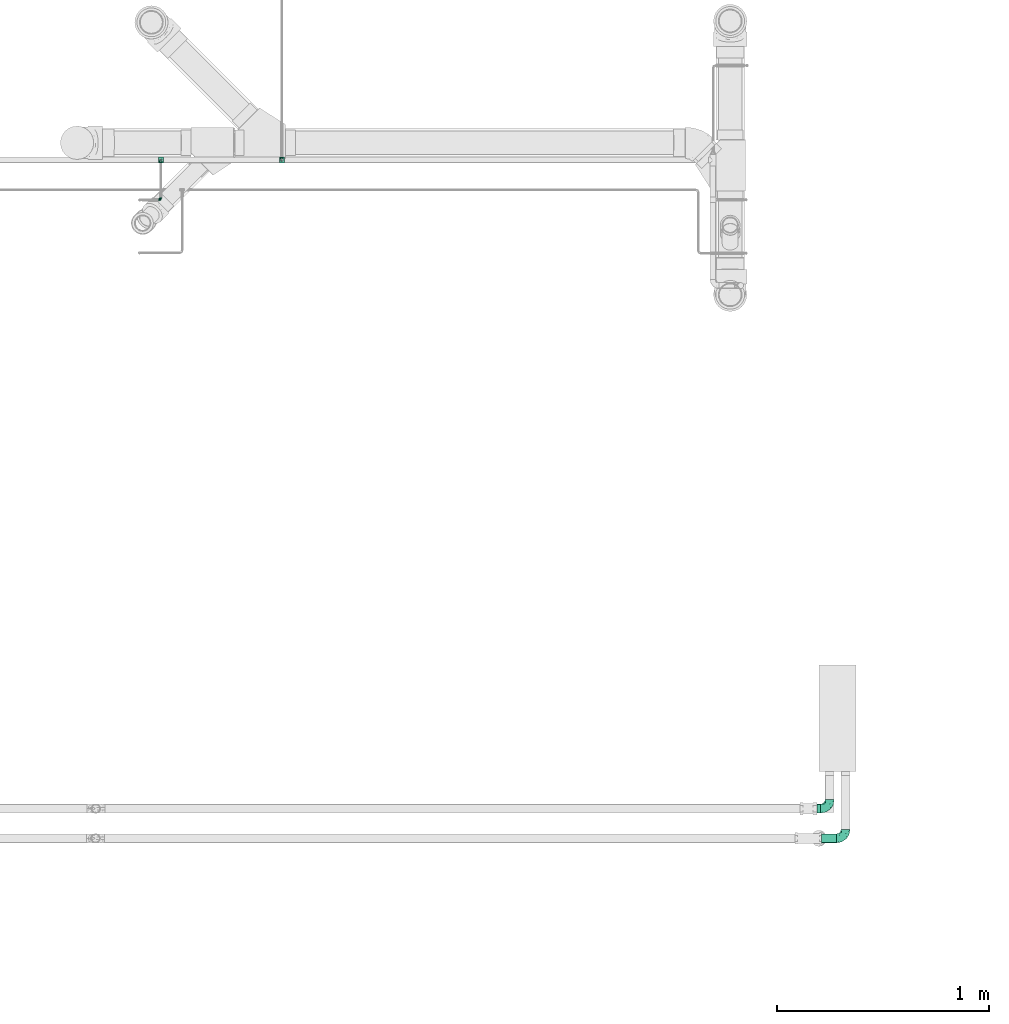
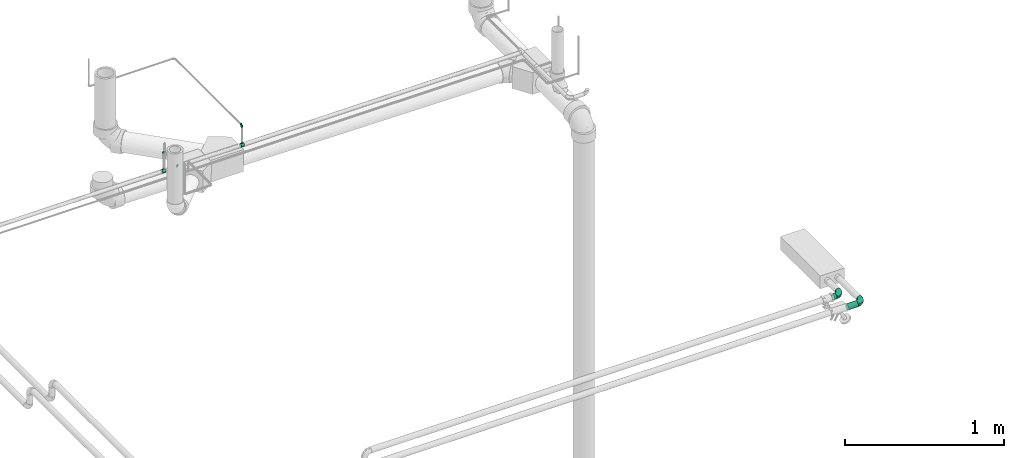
# One storey, part 72 of 108: 7 flow fittings, 2 flow segments.
"""IFC2X3 building model written with IfcOpenShell, lengths in millimetres."""

import ifcopenshell
import ifcopenshell.guid

model = None  # the IFC model being written
_history = None  # IfcOwnerHistory: only IFC2X3 demands one
_inside = {}  # id of a spatial element -> (the spatial element, [elements in it])
_under = {}  # id of a project, library or spatial element -> (it, [spatial elements below it])
_declared = {}  # id of a project -> (the project, [libraries it declares])
_typed = {}  # id of a type object -> (the type object, [elements of that type])
_made_of = {}  # id of a material, layer set ... -> (it, [elements and type objects made of it])


def new_model(schema):
    """Start an empty IFC model of exactly this schema.

    Asked for "IFC4X3", IfcOpenShell would pick the latest addendum, in which some entities
    have other attributes; the version numbers below select the first issue.
    IFC2X3 requires an IfcOwnerHistory on every rooted entity: one is made here for all.
    """
    global model, _history
    if schema == "IFC4X3":
        model = ifcopenshell.file(schema_version=(4, 3, 0, 0))
    else:
        model = ifcopenshell.file(schema=schema)
    _inside.clear()
    _under.clear()
    _declared.clear()
    _typed.clear()
    _made_of.clear()
    _history = None
    if model.schema == "IFC2X3":
        org = make("IfcOrganization", Name="unknown")
        user = make(
            "IfcPersonAndOrganization",
            ThePerson=make("IfcPerson", FamilyName="unknown"),
            TheOrganization=org,
        )
        app = make(
            "IfcApplication",
            ApplicationDeveloper=org,
            Version="unknown",
            ApplicationFullName="unknown",
            ApplicationIdentifier="unknown",
        )
        _history = make(
            "IfcOwnerHistory",
            OwningUser=user,
            OwningApplication=app,
            ChangeAction="ADDED",
            CreationDate=0,
        )
    return model


def make(cls, **values):
    """One entity of the class cls with the attributes given. An attribute that is None is left unset."""
    return model.create_entity(
        cls, **{name: value for name, value in values.items() if value is not None}
    )


def entity(cls, *values):
    """Any entity or typed value of the class cls, its attributes in the order of the schema. None: left unset."""
    e = model.create_entity(cls)
    for i, value in enumerate(values):
        if value is not None:
            e[i] = value
    return e


def rooted(cls, **values):
    """An entity with a GlobalId (a new one), such as an element, a storey or a relation."""
    return make(cls, GlobalId=ifcopenshell.guid.new(), OwnerHistory=_history, **values)


def si_unit(unit_type, name, prefix=None):
    """IfcSIUnit, for example si_unit("LENGTHUNIT", "METRE", prefix="MILLI")."""
    return make("IfcSIUnit", UnitType=unit_type, Prefix=prefix, Name=name)


def converted_unit(unit_type, name, factor, base, dimensions=None, offset=None):
    """IfcConversionBasedUnit, such as the inch: factor (a typed value) times the base unit."""
    return make(
        "IfcConversionBasedUnit"
        if offset is None
        else "IfcConversionBasedUnitWithOffset",
        ConversionOffset=offset,
        Dimensions=None
        if dimensions is None
        else entity("IfcDimensionalExponents", *dimensions),
        UnitType=unit_type,
        Name=name,
        ConversionFactor=make(
            "IfcMeasureWithUnit", ValueComponent=factor, UnitComponent=base
        ),
    )


def derived_unit(unit_type, elements):
    """IfcDerivedUnit: a product of units, each with its exponent."""
    return make(
        "IfcDerivedUnit",
        Elements=[
            make("IfcDerivedUnitElement", Unit=unit, Exponent=power)
            for unit, power in elements
        ],
        UnitType=unit_type,
    )


def assignment(units):
    """IfcUnitAssignment: the units of a project."""
    return None if units is None else make("IfcUnitAssignment", Units=units)


def point(xyz):
    """IfcCartesianPoint."""
    return None if xyz is None else make("IfcCartesianPoint", Coordinates=xyz)


def direction(xyz):
    """IfcDirection."""
    return None if xyz is None else make("IfcDirection", DirectionRatios=xyz)


def frame(location, z_axis=None, x_axis=None):
    """IfcAxis2Placement3D, a coordinate frame: its origin and axes. An axis left out is left unset."""
    return make(
        "IfcAxis2Placement3D",
        Location=point(location),
        Axis=direction(z_axis),
        RefDirection=direction(x_axis),
    )


def frame_2d(location, x_axis=None):
    """IfcAxis2Placement2D, a coordinate frame in the plane: its origin and x axis."""
    return make(
        "IfcAxis2Placement2D", Location=point(location), RefDirection=direction(x_axis)
    )


def origin_with_axes():
    """The frame at (0, 0, 0) with the z axis (0, 0, 1) and the x axis (1, 0, 0) written out."""
    return frame((0.0, 0.0, 0.0), z_axis=(0.0, 0.0, 1.0), x_axis=(1.0, 0.0, 0.0))


def origin_2d_with_axis():
    """The frame at (0, 0) in the plane with the x axis (1, 0) written out."""
    return frame_2d((0.0, 0.0), x_axis=(1.0, 0.0))


def place(relative_to, where):
    """IfcLocalPlacement: puts the frame where relative to a parent placement (None: the world)."""
    return make(
        "IfcLocalPlacement", PlacementRelTo=relative_to, RelativePlacement=where
    )


def context(
    kind, dimensions, precision=None, world=None, true_north=None, identifier=None
):
    """IfcGeometricRepresentationContext, for example the 3D "Model" context."""
    return make(
        "IfcGeometricRepresentationContext",
        ContextIdentifier=identifier,
        ContextType=kind,
        CoordinateSpaceDimension=dimensions,
        Precision=precision,
        WorldCoordinateSystem=world,
        TrueNorth=true_north,
    )


def subcontext(parent, identifier, kind, view, scale=None):
    """IfcGeometricRepresentationSubContext, for example "Body" below "Model"."""
    return make(
        "IfcGeometricRepresentationSubContext",
        ContextIdentifier=identifier,
        ContextType=kind,
        ParentContext=parent,
        TargetScale=scale,
        TargetView=view,
    )


def project(units=None, contexts=None):
    """IfcProject with its units and contexts."""
    return rooted(
        "IfcProject",
        Name="project",
        RepresentationContexts=contexts,
        UnitsInContext=assignment(units),
    )


def spatial(cls, under=None, at=None, **own):
    """A site, building, storey or space (cls), placed at a placement, below another one or the project."""
    s = rooted(cls, ObjectPlacement=at, **own)
    if under is not None:
        _under.setdefault(under.id(), (under, []))[1].append(s)
    return s


def profile(cls, at=None, kind="AREA", **sizes):
    """A parametric profile (cls). Its sizes go by their IFC names, for example OverallWidth=200.0."""
    return make(cls, ProfileType=kind, Position=at, **sizes)


def hollow_circle(**sizes):
    """IfcCircleHollowProfileDef."""
    return profile("IfcCircleHollowProfileDef", **sizes)


def extrude(swept, where, along, depth):
    """IfcExtrudedAreaSolid: the profile swept, set in the frame where, extruded along a direction by depth."""
    return make(
        "IfcExtrudedAreaSolid",
        SweptArea=swept,
        Position=where,
        ExtrudedDirection=direction(along),
        Depth=depth,
    )


def faces_of(points, faces, orient=None, outer=None):
    """IfcFace entities. A face is a list of loops; a loop is a list of indices into points, from 0.

    orient and outer hold one flag for each loop. By default every Orientation is true, the
    first loop of a face is its IfcFaceOuterBound and the others are IfcFaceBound.
    """
    made = []
    for i, loops in enumerate(faces):
        bounds = []
        for j, loop in enumerate(loops):
            is_outer = j == 0 if outer is None else outer[i][j]
            bounds.append(
                make(
                    "IfcFaceOuterBound" if is_outer else "IfcFaceBound",
                    Bound=make("IfcPolyLoop", Polygon=[points[k] for k in loop]),
                    Orientation=True if orient is None else orient[i][j],
                )
            )
        made.append(make("IfcFace", Bounds=bounds))
    return made


def open_shell(faces, orient=None, outer=None):
    """The faces of one IfcOpenShell. surface_model builds it on its shared points."""
    return ("IfcOpenShell", faces, orient, outer)


def surface_model(cls, points, shells):
    """IfcFaceBasedSurfaceModel or IfcShellBasedSurfaceModel (cls): surfaces that need not close."""
    shared = [point(p) for p in points]
    made = [make(c, CfsFaces=faces_of(shared, fs, o, b)) for c, fs, o, b in shells]
    if cls == "IfcFaceBasedSurfaceModel":
        return make(cls, FbsmFaces=made)
    return make(cls, SbsmBoundary=made)


def shape(context_of_items, identifier, shape_type, items):
    """IfcShapeRepresentation: the items that make up one representation, for example the "Body"."""
    return make(
        "IfcShapeRepresentation",
        ContextOfItems=context_of_items,
        RepresentationIdentifier=identifier,
        RepresentationType=shape_type,
        Items=items,
    )


def source(mapping_origin, context_of_items, identifier, shape_type, items):
    """IfcRepresentationMap: a shape defined once, which mapped items show again and again."""
    return make(
        "IfcRepresentationMap",
        MappingOrigin=mapping_origin,
        MappedRepresentation=shape(context_of_items, identifier, shape_type, items),
    )


def transform(
    local_origin,
    x_axis=None,
    y_axis=None,
    z_axis=None,
    scale=None,
    scale2=None,
    scale3=None,
    uniform=True,
):
    """IfcCartesianTransformationOperator3D, or its non-uniform kind. x_axis, y_axis, z_axis: its Axis1, 2, 3."""
    if uniform:
        return make(
            "IfcCartesianTransformationOperator3D",
            Axis1=direction(x_axis),
            Axis2=direction(y_axis),
            LocalOrigin=point(local_origin),
            Scale=scale,
            Axis3=direction(z_axis),
        )
    return make(
        "IfcCartesianTransformationOperator3DnonUniform",
        Axis1=direction(x_axis),
        Axis2=direction(y_axis),
        LocalOrigin=point(local_origin),
        Scale=scale,
        Axis3=direction(z_axis),
        Scale2=scale2,
        Scale3=scale3,
    )


def mapped(mapping_source, mapping_target):
    """IfcMappedItem: shows the shape of a source again, moved by a transform."""
    return make(
        "IfcMappedItem", MappingSource=mapping_source, MappingTarget=mapping_target
    )


def made_of(thing, what):
    """Note that an element or type object is made of a material, layer set ...; save() writes the relation."""
    if what is not None:
        _made_of.setdefault(what.id(), (what, []))[1].append(thing)
    return thing


def type_object(cls, material=None, **own):
    """A type object (cls), such as IfcWallType, which elements share."""
    return made_of(rooted(cls, **own), material)


def element(
    cls,
    number,
    at=None,
    inside=None,
    cuts=None,
    type_object=None,
    material=None,
    context=None,
    identifier="Body",
    shape_type=None,
    held_by="IfcProductDefinitionShape",
    body=None,
    shapes=None,
    **own,
):
    """One element of the class cls, such as IfcWall. Its Tag is "e" and its number.

    at: its placement. inside: the storey or other place that contains it. cuts: it is an
    opening in that element (IfcRelVoidsElement). A single representation is given by context,
    identifier, shape_type and body (its items); several are given by shapes. held_by: the class
    of the entity that holds the representations. save() writes the other relations.
    """
    e = rooted(cls, Tag="e%d" % number, ObjectPlacement=at, **own)
    if body is not None:
        shapes = [shape(context, identifier, shape_type, body)]
    if shapes is not None:
        e.Representation = make(held_by, Representations=shapes)
    if inside is not None:
        _inside.setdefault(inside.id(), (inside, []))[1].append(e)
    if cuts is not None:
        rooted(
            "IfcRelVoidsElement", RelatingBuildingElement=cuts, RelatedOpeningElement=e
        )
    if type_object is not None:
        _typed.setdefault(type_object.id(), (type_object, []))[1].append(e)
    return made_of(e, material)


def aggregate(whole, parts):
    """IfcRelAggregates: a whole, such as a stair, and the parts it consists of."""
    return rooted("IfcRelAggregates", RelatingObject=whole, RelatedObjects=parts)


def save(model, path):
    """Write the relations noted so far, then the file.

    IfcRelAggregates (storeys below a building ...), IfcRelContainedInSpatialStructure (elements
    in a storey), IfcRelDefinesByType, IfcRelAssociatesMaterial and IfcRelDeclares: one each for
    every whole, place, type object, material and project.
    """
    for whole, parts in _under.values():
        aggregate(whole, parts)
    for where, things in _inside.values():
        rooted(
            "IfcRelContainedInSpatialStructure",
            RelatedElements=things,
            RelatingStructure=where,
        )
    for kind, things in _typed.values():
        rooted("IfcRelDefinesByType", RelatedObjects=things, RelatingType=kind)
    for what, things in _made_of.values():
        rooted("IfcRelAssociatesMaterial", RelatedObjects=things, RelatingMaterial=what)
    for by, libraries in _declared.values():
        rooted("IfcRelDeclares", RelatingContext=by, RelatedDefinitions=libraries)
    model.write(path)


model = new_model("IFC2X3")

# Units and contexts
model_context = context("Model", 3, precision=0.01, world=frame((0.0, 4.29681676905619e-09, 0.0)), true_north=direction((4.01073788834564e-13, 1.0)))
plan_context = context("Plan", 3, precision=0.01, world=frame((0.0, 4.29681676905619e-09, 0.0)), true_north=direction((4.01073788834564e-13, 1.0)))
body_context = subcontext(model_context, "Body", "Model", "MODEL_VIEW")
ifc_project = project(units=[converted_unit("PLANEANGLEUNIT", "DEGREE", entity("IfcPositiveLengthMeasure", 0.0174532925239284), si_unit("PLANEANGLEUNIT", "RADIAN"), dimensions=[0, 0, 0, 0, 0, 0, 0]), si_unit("AREAUNIT", "SQUARE_METRE"), si_unit("LENGTHUNIT", "METRE", prefix="MILLI"), si_unit("MASSUNIT", "GRAM", prefix="KILO"), si_unit("POWERUNIT", "WATT"), si_unit("PRESSUREUNIT", "PASCAL", prefix="KILO"), si_unit("FORCEUNIT", "NEWTON", prefix="KILO"), si_unit("ELECTRICVOLTAGEUNIT", "VOLT"), si_unit("ELECTRICCURRENTUNIT", "AMPERE"), si_unit("THERMODYNAMICTEMPERATUREUNIT", "DEGREE_CELSIUS"), si_unit("TIMEUNIT", "SECOND"), si_unit("VOLUMEUNIT", "CUBIC_METRE"), derived_unit("LINEARVELOCITYUNIT", [(si_unit("LENGTHUNIT", "METRE"), 1), (si_unit("TIMEUNIT", "SECOND"), -1)]), derived_unit("VOLUMETRICFLOWRATEUNIT", [(si_unit("VOLUMEUNIT", "CUBIC_METRE"), 1), (si_unit("TIMEUNIT", "SECOND"), -1)]), derived_unit("THERMALTRANSMITTANCEUNIT", [(si_unit("POWERUNIT", "WATT"), 1), (si_unit("THERMODYNAMICTEMPERATUREUNIT", "KELVIN"), -1), (si_unit("AREAUNIT", "SQUARE_METRE"), -1)]), derived_unit("SOUNDPRESSUREUNIT", [(si_unit("PRESSUREUNIT", "PASCAL"), 1)])], contexts=[model_context, plan_context])

# Site, building, storey
site_placement = place(None, frame((0.0, -4.29681676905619e-09, 0.0), z_axis=(0.0, 0.0, 1.0), x_axis=(1.0, 0.0, 0.0)))
site = spatial("IfcSite", under=ifc_project, at=site_placement, CompositionType="ELEMENT")
building_placement = place(site_placement, frame((0.0, 4.29681676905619e-09, 0.0), z_axis=(0.0, 0.0, 1.0), x_axis=(1.0, 0.0, 0.0)))
building = spatial("IfcBuilding", under=site, at=building_placement, Name="mc-building", CompositionType="ELEMENT")
storey_placement = place(building_placement, frame((0.0, 0.0, 210200.0), z_axis=(0.0, 0.0, 1.0), x_axis=(1.0, 0.0, 0.0)))
storey = spatial("IfcBuildingStorey", under=building, at=storey_placement, Name="Nivå F - 0,7 m", CompositionType="ELEMENT", Elevation=210200.0)

# Flow fittings
pipe_fitting_type_1 = type_object("IfcPipeFittingType", Name="magi_pipe_fe_elbow_short_001", PredefinedType="BEND")
shared_shape_1 = source(origin_with_axes(), body_context, "Body", "SurfaceModel", [
    surface_model("IfcShellBasedSurfaceModel", [(-42.4, 10.6, -18.35974), (-42.4, 5.48696, -20.47763), (-42.4, 0.0, -21.2), (-42.4, 14.99066, -14.99066), (-42.4, 20.47763, -5.48696), (-42.4, 18.35974, -10.6), (-42.4, -14.99066, 14.99066), (-42.4, -21.2, 0.0), (-42.4, -10.6, -18.35974), (-42.4, -14.99066, -14.99066), (-42.4, -5.48696, -20.47763), (-42.4, -18.35974, -10.6), (-42.4, -20.47763, -5.48696), (-42.4, 10.6, 18.35974), (-42.4, 20.47763, 5.48696), (-42.4, 18.35974, 10.6), (-42.4, 14.99066, 14.99066), (-42.4, 5.48696, 20.47763), (-42.4, 0.0, 21.2), (-42.4, -20.47763, 5.48696), (-42.4, -18.35974, 10.6), (-42.4, -10.6, 18.35974), (-42.4, -5.48696, 20.47763), (-42.4, 21.2, 0.0), (0.0, 42.4, -21.2), (-5.48696, 42.4, -20.47763), (-10.6, 42.4, -18.35974), (-14.99066, 42.4, -14.99066), (-18.35974, 42.4, -10.6), (-20.47763, 42.4, -5.48696), (21.2, 42.4, 0.0), (5.48696, 42.4, -20.47763), (14.99066, 42.4, -14.99066), (10.6, 42.4, -18.35974), (18.35974, 42.4, -10.6), (20.47763, 42.4, -5.48696), (14.99066, 42.4, 14.99066), (-20.47763, 42.4, 5.48696), (-10.6, 42.4, 18.35974), (-14.99066, 42.4, 14.99066), (-18.35974, 42.4, 10.6), (-5.48696, 42.4, 20.47763), (0.0, 42.4, 21.2), (18.35974, 42.4, 10.6), (20.47763, 42.4, 5.48696), (5.48696, 42.4, 20.47763), (10.6, 42.4, 18.35974), (-21.2, 42.4, 0.0), (-31.10239, -16.47009, 11.90111), (-27.83957, -12.231, 15.79732), (-30.23067, -18.77937, 0.0), (-18.74048, -13.50096, 10.69998), (-28.17586, -18.50359, 6.61185), (18.50359, 28.17586, 6.61185), (14.95929, 16.60735, 5.43468), (16.35874, 18.06133, 0.0), (-20.72313, 33.83635, 9.21426), (-17.70981, 33.00599, 13.92769), (-31.16033, -8.01664, 19.07348), (-32.38682, -2.80842, 20.83743), (-29.68688, 3.24967, 21.16387), (-7.74467, -9.46536, 0.0), (-16.60735, -14.95929, 5.43468), (-18.06133, -16.35874, 0.0), (-16.37932, -5.14532, 17.61254), (-21.10659, -0.19025, 20.54817), (-1.82445, -3.58377, 9.55223), (-0.35533, 0.43745, 12.66367), (-7.20655, -5.07682, 13.06146), (-33.14056, 17.6728, 13.91288), (-7.36799, 20.84806, 21.16196), (-15.70315, 15.70315, 20.68489), (-12.62356, 9.26422, 21.0908), (-36.67879, 12.83836, 17.27427), (-7.91358, 36.5686, 19.85759), (-2.90555, 31.71221, 21.14793), (-33.84689, 20.71971, 9.21285), (-33.51649, 22.58113, 4.66115), (-26.3226, 26.3226, 7.92474), (-32.67995, 8.31454, 20.02643), (-5.53379, 14.19921, 20.81623), (-10.53385, 3.88918, 19.79653), (-2.16577, 11.45378, 19.48254), (-3.78693, 3.78693, 17.3328), (12.231, 27.83957, 15.79732), (13.50096, 18.74047, 10.69998), (16.47009, 31.10239, 11.90111), (-22.53806, 14.38475, 19.60876), (-23.29615, 9.08095, 20.82061), (2.80842, 32.38682, 20.83743), (8.01664, 31.16033, 19.07348), (5.14532, 16.37932, 17.61254), (18.77937, 30.23067, 0.0), (-20.80278, 5.19491, 21.19095), (-19.62579, 22.38752, 17.42006), (-29.19336, 14.39093, 17.85259), (-22.31569, 34.20044, 4.54807), (-26.56962, 27.80621, 3.73106), (9.67657, 17.17133, 14.49993), (-24.04026, 31.8, 0.0), (-9.16861, 28.72652, 20.19004), (-12.09761, 21.9456, 20.37969), (-15.36991, 27.40112, 17.818), (-16.88976, 20.52477, 19.2896), (-12.95169, 35.54896, 17.36222), (-17.17133, -9.67657, 14.49993), (-21.98655, 28.10245, 11.99898), (-22.34699, 23.67592, 15.01692), (-27.22822, 22.77969, 11.82161), (0.19025, 21.10658, 20.54817), (4.8276, 7.36347, 13.42842), (-10.06209, -9.46364, 9.95114), (1.25876, -2.7536, 5.73797), (6.43781, 3.77591, 7.40371), (6.57528, 2.20066, 3.17705), (10.91934, 8.84313, 5.00748), (10.64415, 10.99764, 8.89767), (-31.8, 24.04026, 0.0), (-5.71381, -8.43063, 6.15529), (2.57199, -2.57199, 0.0), (9.46536, 7.74467, 0.0), (-17.17133, -9.67657, -14.49993), (-27.83957, -12.231, -15.79732), (-16.37932, -5.14532, -17.61254), (-18.74048, -13.50096, -10.69998), (-33.00599, 17.70981, -13.92769), (-35.54896, 12.95169, -17.36222), (-34.20044, 22.31569, -4.54807), (-28.17586, -18.50359, -6.61185), (-26.3226, 26.3226, -7.92474), (-33.83635, 20.72313, -9.21426), (-16.60735, -14.95929, -5.43468), (-20.52477, 16.88976, -19.2896), (-21.9456, 12.0976, -20.37969), (-27.40112, 15.36991, -17.818), (-12.83836, 36.67879, -17.27427), (-17.6728, 33.14056, -13.91288), (8.01664, 31.16033, -19.07348), (5.14532, 16.37932, -17.61254), (0.19025, 21.10658, -20.54817), (-36.5686, 7.91358, -19.85759), (-31.10239, -16.47009, -11.90111), (-31.16033, -8.01664, -19.07348), (-14.38475, 22.53806, -19.60876), (-8.31454, 32.67995, -20.02643), (-9.08095, 23.29615, -20.82061), (-32.38682, -2.80842, -20.83743), (-20.84806, 7.36799, -21.16196), (-15.70315, 15.70314, -20.68489), (-9.26422, 12.62356, -21.0908), (-31.71221, 2.90555, -21.14793), (-22.58113, 33.51649, -4.66115), (-20.71971, 33.84689, -9.21285), (-28.72652, 9.16861, -20.19004), (-27.80621, 26.56962, -3.73106), (-5.19491, 20.80278, -21.19095), (-22.38752, 19.62579, -17.42006), (-14.39093, 29.19336, -17.85259), (2.80842, 32.38682, -20.83743), (-3.24967, 29.68688, -21.16387), (16.47009, 31.10239, -11.90111), (12.231, 27.83957, -15.79732), (6.57528, 2.20067, -3.17705), (10.91934, 8.84313, -5.00749), (-14.19921, 5.53379, -20.81623), (-3.88918, 10.53385, -19.79653), (-11.45378, 2.16577, -19.48254), (1.25876, -2.7536, -5.73797), (-5.71381, -8.43063, -6.15529), (-1.82445, -3.58377, -9.55223), (13.50096, 18.74048, -10.69998), (18.50359, 28.17586, -6.61185), (14.95929, 16.60735, -5.43468), (-28.10245, 21.98655, -11.99898), (9.67657, 17.17133, -14.49993), (10.64415, 10.99764, -8.89767), (4.8276, 7.36347, -13.42842), (-23.67592, 22.34699, -15.01692), (-22.77969, 27.22822, -11.82161), (-21.10658, -0.19025, -20.54817), (-3.78693, 3.78693, -17.3328), (-7.20655, -5.07682, -13.06146), (-10.06209, -9.46364, -9.95113), (-0.35533, 0.43745, -12.66367), (6.43781, 3.77591, -7.40371)], [open_shell([[[0, 1, 2]], [[3, 0, 2]], [[4, 5, 3]], [[2, 4, 3]], [[6, 2, 7]], [[8, 9, 10]], [[11, 10, 9]], [[12, 7, 11]], [[2, 10, 11]], [[11, 7, 2]], [[6, 4, 2]], [[13, 14, 4]], [[15, 14, 16]], [[4, 6, 13]], [[16, 14, 13]], [[17, 13, 18]], [[19, 20, 7]], [[7, 20, 6]], [[21, 22, 6]], [[18, 6, 22]], [[6, 18, 13]], [[23, 4, 14]], [[24, 25, 26]], [[24, 26, 27]], [[27, 28, 29]], [[27, 29, 24]], [[24, 29, 30]], [[31, 32, 33]], [[31, 24, 32]], [[34, 30, 35]], [[32, 24, 34]], [[24, 30, 34]], [[29, 36, 30]], [[29, 37, 38]], [[39, 37, 40]], [[36, 29, 38]], [[38, 37, 39]], [[41, 42, 38]], [[30, 43, 44]], [[36, 43, 30]], [[36, 45, 46]], [[45, 36, 42]], [[38, 42, 36]], [[37, 29, 47]], [[6, 48, 49]], [[19, 7, 50]], [[51, 48, 52]], [[53, 54, 55]], [[48, 6, 20]], [[19, 52, 20]], [[40, 56, 57]], [[49, 21, 6]], [[49, 58, 21]], [[18, 59, 60]], [[61, 62, 63]], [[58, 64, 65]], [[66, 67, 68]], [[15, 16, 69]], [[70, 71, 72]], [[13, 73, 16]], [[22, 59, 18]], [[41, 74, 75]], [[18, 60, 17]], [[15, 69, 76]], [[16, 73, 69]], [[23, 14, 77]], [[14, 15, 76]], [[77, 76, 78]], [[17, 79, 13]], [[80, 81, 82]], [[68, 83, 64]], [[84, 36, 46]], [[85, 86, 84]], [[87, 79, 88]], [[21, 58, 22]], [[42, 89, 45]], [[53, 44, 43]], [[42, 41, 75]], [[84, 90, 91]], [[43, 86, 53]], [[92, 44, 53]], [[86, 43, 36]], [[90, 46, 45]], [[53, 55, 92]], [[88, 93, 72]], [[54, 53, 85]], [[87, 94, 95]], [[78, 96, 97]], [[98, 84, 91]], [[99, 96, 47]], [[79, 17, 60]], [[96, 78, 56]], [[62, 52, 63]], [[57, 39, 40]], [[100, 70, 75]], [[101, 102, 103]], [[19, 50, 52]], [[104, 38, 39]], [[74, 41, 38]], [[57, 102, 104]], [[105, 64, 49]], [[90, 84, 46]], [[40, 37, 56]], [[56, 106, 57]], [[102, 57, 107]], [[95, 107, 69]], [[76, 108, 78]], [[100, 101, 70]], [[89, 75, 109]], [[64, 58, 49]], [[63, 52, 50]], [[59, 58, 65]], [[105, 49, 51]], [[64, 83, 81]], [[89, 90, 45]], [[30, 44, 92]], [[109, 82, 91]], [[109, 91, 90]], [[91, 83, 110]], [[111, 68, 105]], [[66, 68, 111]], [[62, 51, 52]], [[66, 112, 113]], [[114, 115, 113]], [[98, 85, 84]], [[52, 48, 20]], [[49, 48, 51]], [[84, 86, 36]], [[53, 86, 85]], [[88, 79, 60]], [[73, 79, 95]], [[96, 56, 37]], [[78, 108, 106]], [[87, 103, 94]], [[100, 74, 104]], [[108, 69, 107]], [[78, 97, 77]], [[88, 72, 71]], [[109, 75, 70]], [[81, 72, 65]], [[70, 72, 80]], [[75, 89, 42]], [[90, 89, 109]], [[58, 59, 22]], [[60, 59, 65]], [[67, 83, 68]], [[110, 113, 116]], [[88, 60, 93]], [[87, 88, 71]], [[103, 87, 71]], [[79, 87, 95]], [[101, 103, 71]], [[94, 103, 102]], [[47, 96, 37]], [[96, 99, 97]], [[99, 117, 97]], [[97, 117, 77]], [[23, 77, 117]], [[14, 76, 77]], [[60, 65, 93]], [[65, 72, 93]], [[70, 101, 71]], [[102, 101, 100]], [[69, 108, 76]], [[106, 108, 107]], [[57, 106, 107]], [[78, 106, 56]], [[57, 104, 39]], [[100, 104, 102]], [[102, 107, 94]], [[95, 94, 107]], [[64, 81, 65]], [[82, 81, 83]], [[91, 82, 83]], [[80, 82, 109]], [[70, 80, 109]], [[81, 80, 72]], [[79, 73, 13]], [[69, 73, 95]], [[104, 74, 38]], [[75, 74, 100]], [[62, 61, 118]], [[111, 62, 118]], [[113, 115, 116]], [[119, 118, 61]], [[111, 105, 51]], [[113, 112, 114]], [[120, 55, 54]], [[68, 64, 105]], [[91, 110, 98]], [[116, 98, 110]], [[62, 111, 51]], [[66, 111, 118]], [[112, 66, 118]], [[67, 113, 110]], [[118, 119, 112]], [[114, 112, 119]], [[119, 120, 114]], [[115, 120, 54]], [[120, 115, 114]], [[116, 54, 85]], [[54, 116, 115]], [[116, 85, 98]], [[113, 67, 66]], [[83, 67, 110]], [[121, 122, 123]], [[122, 121, 124]], [[5, 125, 3]], [[3, 126, 0]], [[117, 127, 23]], [[50, 12, 128]], [[127, 129, 130]], [[128, 131, 63]], [[132, 133, 134]], [[27, 135, 136]], [[137, 138, 139]], [[0, 140, 1]], [[128, 11, 141]], [[142, 8, 10]], [[128, 63, 50]], [[5, 4, 130]], [[11, 9, 141]], [[143, 144, 145]], [[146, 10, 2]], [[147, 148, 149]], [[11, 128, 12]], [[124, 141, 122]], [[150, 2, 1]], [[151, 152, 129]], [[125, 134, 126]], [[153, 147, 150]], [[127, 154, 129]], [[145, 155, 149]], [[47, 29, 151]], [[143, 156, 157]], [[152, 29, 28]], [[24, 158, 159]], [[122, 9, 8]], [[27, 26, 135]], [[144, 26, 25]], [[32, 160, 161]], [[24, 31, 158]], [[120, 162, 163]], [[130, 125, 5]], [[27, 136, 28]], [[1, 140, 150]], [[33, 161, 137]], [[142, 122, 8]], [[24, 159, 25]], [[164, 165, 166]], [[167, 168, 169]], [[34, 160, 32]], [[161, 33, 32]], [[170, 160, 171]], [[131, 128, 124]], [[30, 92, 35]], [[35, 92, 171]], [[172, 171, 55]], [[35, 171, 34]], [[144, 25, 159]], [[130, 173, 125]], [[174, 175, 176]], [[136, 152, 28]], [[33, 137, 31]], [[122, 142, 123]], [[134, 125, 177]], [[157, 177, 136]], [[152, 178, 129]], [[153, 133, 147]], [[146, 150, 179]], [[146, 142, 10]], [[7, 12, 50]], [[179, 166, 123]], [[179, 123, 142]], [[123, 180, 181]], [[138, 137, 161]], [[55, 171, 92]], [[158, 137, 139]], [[174, 161, 170]], [[138, 180, 165]], [[180, 138, 176]], [[124, 121, 182]], [[176, 183, 180]], [[61, 131, 168]], [[169, 168, 182]], [[172, 170, 171]], [[122, 141, 9]], [[128, 141, 124]], [[171, 160, 34]], [[161, 160, 170]], [[145, 144, 159]], [[135, 144, 157]], [[127, 130, 4]], [[129, 178, 173]], [[143, 132, 156]], [[153, 140, 126]], [[178, 136, 177]], [[129, 154, 151]], [[145, 149, 148]], [[179, 150, 147]], [[165, 149, 139]], [[147, 149, 164]], [[150, 146, 2]], [[142, 146, 179]], [[137, 158, 31]], [[159, 158, 139]], [[174, 138, 161]], [[184, 169, 183]], [[145, 159, 155]], [[143, 145, 148]], [[132, 143, 148]], [[144, 143, 157]], [[133, 132, 148]], [[156, 132, 134]], [[23, 127, 4]], [[127, 117, 154]], [[117, 99, 154]], [[154, 99, 151]], [[47, 151, 99]], [[29, 152, 151]], [[159, 139, 155]], [[139, 149, 155]], [[147, 133, 148]], [[134, 133, 153]], [[136, 178, 152]], [[173, 178, 177]], [[125, 173, 177]], [[129, 173, 130]], [[125, 126, 3]], [[153, 126, 134]], [[134, 177, 156]], [[157, 156, 177]], [[138, 165, 139]], [[166, 165, 180]], [[123, 166, 180]], [[164, 166, 179]], [[147, 164, 179]], [[165, 164, 149]], [[144, 135, 26]], [[136, 135, 157]], [[126, 140, 0]], [[150, 140, 153]], [[182, 131, 124]], [[168, 119, 61]], [[119, 167, 162]], [[63, 131, 61]], [[172, 163, 175]], [[172, 55, 120]], [[123, 181, 121]], [[182, 121, 181]], [[175, 174, 170]], [[176, 138, 174]], [[169, 182, 181]], [[131, 182, 168]], [[183, 169, 181]], [[167, 169, 184]], [[162, 167, 184]], [[119, 168, 167]], [[163, 162, 184]], [[120, 119, 162]], [[175, 163, 184]], [[120, 163, 172]], [[176, 175, 184]], [[172, 175, 170]], [[180, 183, 181]], [[184, 183, 176]]])]),
])
for number, where, z_axis, x_axis, name in (
    (1, (329375.2875, 460394.12277, 3038.28479999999), (0.0, 0.0, 1.0), (1.0, 0.0, 0.0), "magi_pipe_fe_elbow_short_001"),
    (2, (329450.2875, 460254.12277, 3038.28479999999), (0.0, 0.0, 1.0), (1.0, 0.0, 0.0), "magi_pipe_fe_elbow_short_001"),
):
    element("IfcFlowFitting", number, at=place(storey_placement, frame(where, z_axis=z_axis, x_axis=x_axis)), inside=storey, type_object=pipe_fitting_type_1, Name=name, context=body_context, shape_type="MappedRepresentation", body=[
        mapped(shared_shape_1, transform((0.0, 0.0, 0.0), scale=1.0)),
    ])
pipe_fitting_type_2 = type_object("IfcPipeFittingType", Name="magi_pipe_elbow_short_001", PredefinedType="BEND")
shared_shape_2 = source(origin_with_axes(), body_context, "Body", "SurfaceModel", [
    surface_model("IfcShellBasedSurfaceModel", [(-12.0, 0.0, -6.0), (-12.0, -5.19615, -3.0), (-12.0, 1.55291, -5.79555), (-12.0, 5.79555, -1.55291), (-12.0, -5.79555, -1.55291), (-12.0, -6.0, 0.0), (-12.0, -1.55291, 5.79555), (-12.0, 0.0, 6.0), (-12.0, -3.0, 5.19615), (-12.0, 3.0, -5.19615), (-12.0, 5.19615, -3.0), (-12.0, 4.24264, -4.24264), (-12.0, -3.0, -5.19615), (-12.0, -4.24264, -4.24264), (-12.0, -1.55291, -5.79555), (-12.0, 6.0, 0.0), (-12.0, -4.24264, 4.24264), (-12.0, 5.79555, 1.55291), (-12.0, 5.19615, 3.0), (-12.0, 4.24264, 4.24264), (-12.0, 1.55291, 5.79555), (-12.0, 3.0, 5.19615), (-12.0, -5.79555, 1.55291), (-12.0, -5.19615, 3.0), (-1.55291, 12.0, -5.79555), (5.19615, 12.0, -3.0), (0.0, 12.0, -6.0), (-5.79555, 12.0, -1.55291), (-3.0, 12.0, -5.19615), (-4.24264, 12.0, -4.24264), (-5.19615, 12.0, -3.0), (-1.55291, 12.0, 5.79555), (1.55291, 12.0, -5.79555), (4.24264, 12.0, -4.24264), (3.0, 12.0, -5.19615), (6.0, 12.0, 0.0), (5.79555, 12.0, -1.55291), (4.24264, 12.0, 4.24264), (-5.19615, 12.0, 3.0), (-5.79555, 12.0, 1.55291), (-4.24264, 12.0, 4.24264), (-3.0, 12.0, 5.19615), (5.19615, 12.0, 3.0), (5.79555, 12.0, 1.55291), (3.0, 12.0, 5.19615), (0.0, 12.0, 6.0), (1.55291, 12.0, 5.79555), (-6.0, 12.0, 0.0), (-2.67965, 2.67964, 5.88263), (-6.5981, -3.76246, 0.0), (0.72792, -0.72792, 0.0), (3.76246, 6.5981, 0.0), (-7.75736, 7.75736, 0.0), (-2.67964, 2.67964, -5.88263)], [open_shell([[[0, 1, 2]], [[3, 2, 1]], [[4, 5, 1]], [[6, 7, 8]], [[9, 2, 3]], [[3, 10, 11]], [[9, 3, 11]], [[12, 13, 14]], [[1, 14, 13]], [[0, 14, 1]], [[1, 5, 3]], [[5, 15, 3]], [[16, 17, 5]], [[18, 17, 19]], [[20, 21, 19]], [[17, 20, 19]], [[20, 17, 8]], [[5, 22, 23]], [[5, 23, 16]], [[17, 16, 8]], [[20, 8, 7]], [[17, 15, 5]], [[24, 25, 26]], [[27, 24, 28]], [[29, 30, 27]], [[29, 27, 28]], [[31, 25, 24]], [[32, 33, 34]], [[33, 32, 25]], [[25, 35, 36]], [[25, 32, 26]], [[25, 37, 35]], [[38, 24, 27]], [[27, 39, 38]], [[24, 38, 31]], [[40, 41, 31]], [[40, 31, 38]], [[37, 25, 31]], [[35, 42, 43]], [[37, 42, 35]], [[44, 45, 46]], [[44, 37, 31]], [[45, 44, 31]], [[27, 47, 39]], [[6, 48, 7]], [[23, 22, 49]], [[16, 23, 49]], [[22, 5, 49]], [[50, 51, 48]], [[8, 49, 48]], [[20, 7, 48]], [[8, 48, 6]], [[42, 51, 43]], [[16, 49, 8]], [[18, 19, 38]], [[48, 19, 21]], [[17, 18, 52]], [[52, 15, 17]], [[52, 18, 38]], [[21, 20, 48]], [[49, 50, 48]], [[44, 46, 48]], [[51, 44, 48]], [[46, 45, 48]], [[35, 43, 51]], [[44, 51, 37]], [[37, 51, 42]], [[38, 39, 52]], [[47, 52, 39]], [[41, 40, 48]], [[40, 19, 48]], [[38, 19, 40]], [[31, 41, 48]], [[45, 31, 48]], [[9, 53, 2]], [[2, 53, 0]], [[52, 10, 3]], [[50, 49, 53]], [[11, 29, 53]], [[1, 49, 4]], [[11, 10, 29]], [[9, 11, 53]], [[49, 5, 4]], [[1, 13, 49]], [[14, 53, 12]], [[49, 13, 12]], [[12, 53, 49]], [[0, 53, 14]], [[3, 15, 52]], [[52, 47, 27]], [[52, 27, 30]], [[29, 10, 30]], [[32, 53, 26]], [[53, 28, 24]], [[36, 35, 51]], [[53, 29, 28]], [[26, 53, 24]], [[53, 34, 51]], [[51, 34, 33]], [[25, 36, 51]], [[51, 50, 53]], [[51, 33, 25]], [[34, 53, 32]], [[30, 10, 52]]])]),
])
for number, where, z_axis, x_axis, name in (
    (3, (326793.72018, 463450.0, 3384.96674999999), (-1.0, 0.0, 0.0), (0.0, 0.0, 1.0), "magi_pipe_elbow_short_001"),
    (4, (326224.00629, 463262.15197, 3385.0), (0.0, 0.0, 1.0), (1.0, 0.0, 0.0), "magi_pipe_elbow_short_001"),
    (5, (326224.00629, 463450.0, 3385.0), (1.0, 0.0, 0.0), (0.0, 0.0, 1.0), "magi_pipe_elbow_short_001"),
):
    element("IfcFlowFitting", number, at=place(storey_placement, frame(where, z_axis=z_axis, x_axis=x_axis)), inside=storey, type_object=pipe_fitting_type_2, Name=name, context=body_context, shape_type="MappedRepresentation", body=[
        mapped(shared_shape_2, transform((0.0, 0.0, 0.0), scale=1.0)),
    ])
pipe_fitting_type_3 = type_object("IfcPipeFittingType", Name="magi_pipe_tee_centric_90_001", PredefinedType="JUNCTION")
shared_shape_3 = source(origin_with_axes(), body_context, "Body", "SurfaceModel", [
    surface_model("IfcShellBasedSurfaceModel", [(-12.0, 3.62347, -13.52296), (-12.0, 0.0, -14.0), (-12.0, 9.89949, -9.89949), (-12.0, 7.0, -12.12436), (-12.0, 13.52296, -3.62347), (-12.0, 12.12436, -7.0), (-12.0, -12.12436, -7.0), (-12.0, -7.0, -12.12436), (-12.0, -9.89949, -9.89949), (-12.0, -3.62347, -13.52296), (-12.0, -13.52296, -3.62347), (-12.0, -14.0, 0.0), (-12.0, 14.0, 0.0), (-12.0, 12.12436, 7.0), (-12.0, 13.52296, 3.62347), (-12.0, 7.0, 12.12436), (-12.0, 3.62347, 13.52296), (-12.0, 9.89949, 9.89949), (-12.0, 0.0, 14.0), (-12.0, -13.52296, 3.62347), (-12.0, -12.12436, 7.0), (-12.0, -9.89949, 9.89949), (-12.0, -7.0, 12.12436), (-12.0, -3.62347, 13.52296), (12.0, 9.89949, -9.89949), (12.0, 0.0, -14.0), (12.0, 3.62347, -13.52296), (12.0, 7.0, -12.12436), (12.0, 12.12436, -7.0), (12.0, 13.52296, -3.62347), (12.0, -12.12436, -7.0), (12.0, -3.62347, -13.52296), (12.0, -9.89949, -9.89949), (12.0, -7.0, -12.12436), (12.0, -14.0, 0.0), (12.0, -13.52296, -3.62347), (12.0, 7.0, 12.12436), (12.0, 14.0, 0.0), (12.0, 13.52296, 3.62347), (12.0, 12.12436, 7.0), (12.0, 3.62347, 13.52296), (12.0, 9.89949, 9.89949), (12.0, 0.0, 14.0), (12.0, -12.12436, 7.0), (12.0, -13.52296, 3.62347), (12.0, -9.89949, 9.89949), (12.0, -3.62347, 13.52296), (12.0, -7.0, 12.12436), (12.0, -13.76148, 1.81173), (5.63156, -13.8461, 2.07016), (6.0, -14.0, 0.0), (4.5901, -13.45619, 3.86406), (1.05264, -12.69283, 5.90694), (3.01298, -13.003, 5.18864), (-5.63173, -13.84617, 2.06969), (-12.0, -13.76148, 1.81173), (-6.0, -14.0, 0.0), (-4.59169, -13.45673, 3.86217), (-3.01349, -13.00312, 5.18834), (-1.05429, -12.69297, 5.90665), (5.63156, -13.8461, -2.07016), (12.0, -13.76148, -1.81173), (-12.0, -13.76148, -1.81173), (-5.63173, -13.84617, -2.06969), (3.01298, -13.003, -5.18864), (1.05264, -12.69283, -5.90694), (4.5901, -13.45619, -3.86406), (-1.05429, -12.69297, -5.90665), (-3.01349, -13.00312, -5.18834), (-4.59169, -13.45673, -3.86217), (1.55291, -21.0, -5.79555), (-6.0, -21.0, 0.0), (0.0, -21.0, -6.0), (5.19615, -21.0, -3.0), (3.0, -21.0, -5.19615), (5.79555, -21.0, -1.55291), (4.24264, -21.0, -4.24264), (-4.24264, -21.0, 4.24264), (-3.0, -21.0, -5.19615), (-5.19615, -21.0, -3.0), (-4.24264, -21.0, -4.24264), (-1.55291, -21.0, -5.79555), (-5.79555, -21.0, -1.55291), (5.19615, -21.0, 3.0), (6.0, -21.0, 0.0), (5.79555, -21.0, 1.55291), (-3.0, -21.0, 5.19615), (3.0, -21.0, 5.19615), (4.24264, -21.0, 4.24264), (0.0, -21.0, 6.0), (1.55291, -21.0, 5.79555), (-5.79555, -21.0, 1.55291), (-5.19615, -21.0, 3.0), (-1.55291, -21.0, 5.79555)], [open_shell([[[0, 1, 2]], [[3, 0, 2]], [[1, 4, 5]], [[2, 1, 5]], [[6, 4, 1]], [[7, 8, 9]], [[6, 9, 8]], [[10, 11, 6]], [[1, 9, 6]], [[6, 11, 4]], [[11, 12, 4]], [[13, 14, 12]], [[15, 13, 12]], [[15, 11, 16]], [[17, 13, 15]], [[11, 18, 16]], [[19, 20, 11]], [[20, 21, 11]], [[22, 23, 21]], [[18, 21, 23]], [[11, 21, 18]], [[11, 15, 12]], [[24, 25, 26]], [[24, 26, 27]], [[28, 29, 25]], [[28, 25, 24]], [[25, 29, 30]], [[31, 32, 33]], [[32, 31, 30]], [[30, 34, 35]], [[30, 31, 25]], [[30, 36, 34]], [[30, 29, 37]], [[37, 38, 39]], [[39, 36, 30]], [[40, 34, 36]], [[36, 39, 41]], [[34, 40, 42]], [[34, 43, 44]], [[34, 45, 43]], [[45, 46, 47]], [[46, 45, 42]], [[42, 45, 34]], [[39, 30, 37]], [[48, 44, 49]], [[50, 34, 48]], [[44, 51, 49]], [[52, 43, 20]], [[51, 44, 53]], [[52, 53, 43]], [[43, 45, 20]], [[53, 44, 43]], [[54, 55, 56]], [[11, 56, 55]], [[54, 57, 19]], [[58, 59, 20]], [[20, 19, 58]], [[59, 52, 20]], [[58, 19, 57]], [[45, 21, 20]], [[45, 47, 21]], [[23, 46, 42]], [[50, 48, 49]], [[42, 40, 16]], [[47, 46, 22]], [[39, 38, 14]], [[17, 36, 41]], [[13, 41, 39]], [[40, 36, 15]], [[37, 12, 38]], [[54, 19, 55]], [[23, 42, 18]], [[16, 18, 42]], [[23, 22, 46]], [[40, 15, 16]], [[15, 36, 17]], [[13, 17, 41]], [[14, 13, 39]], [[38, 12, 14]], [[47, 22, 21]], [[29, 12, 37]], [[4, 29, 28]], [[28, 24, 5]], [[60, 35, 61]], [[9, 25, 31]], [[26, 25, 1]], [[31, 33, 7]], [[24, 27, 2]], [[3, 27, 26]], [[2, 5, 24]], [[5, 4, 28]], [[4, 12, 29]], [[56, 62, 63]], [[0, 3, 26]], [[9, 1, 25]], [[31, 7, 9]], [[3, 2, 27]], [[1, 0, 26]], [[33, 8, 7]], [[6, 32, 30]], [[64, 65, 30]], [[30, 35, 64]], [[6, 30, 65]], [[34, 50, 61]], [[60, 66, 35]], [[60, 61, 50]], [[35, 66, 64]], [[67, 68, 6]], [[8, 32, 6]], [[68, 10, 6]], [[6, 65, 67]], [[69, 63, 10]], [[63, 62, 10]], [[62, 56, 11]], [[69, 10, 68]], [[32, 8, 33]], [[70, 71, 72]], [[73, 70, 74]], [[73, 75, 70]], [[73, 74, 76]], [[77, 71, 70]], [[78, 79, 80]], [[79, 78, 81]], [[79, 71, 82]], [[79, 81, 72]], [[72, 71, 79]], [[70, 75, 83]], [[84, 85, 83]], [[83, 77, 70]], [[86, 83, 87]], [[87, 83, 88]], [[89, 87, 90]], [[91, 77, 92]], [[71, 77, 91]], [[86, 89, 93]], [[86, 77, 83]], [[89, 86, 87]], [[83, 75, 84]], [[56, 71, 91]], [[54, 92, 77]], [[91, 92, 56]], [[77, 86, 54]], [[56, 92, 54]], [[54, 86, 57]], [[59, 58, 53]], [[57, 89, 58]], [[93, 89, 57]], [[93, 57, 86]], [[90, 51, 89]], [[87, 51, 90]], [[49, 88, 83]], [[87, 88, 49]], [[50, 83, 85]], [[89, 51, 53]], [[52, 59, 53]], [[83, 50, 49]], [[49, 51, 87]], [[85, 84, 50]], [[53, 58, 89]], [[50, 84, 75]], [[60, 73, 76]], [[75, 73, 50]], [[76, 74, 60]], [[50, 73, 60]], [[60, 74, 66]], [[65, 64, 67]], [[66, 72, 64]], [[70, 72, 66]], [[70, 66, 74]], [[81, 69, 72]], [[78, 69, 81]], [[63, 80, 79]], [[63, 78, 80]], [[56, 79, 82]], [[72, 69, 68]], [[67, 64, 68]], [[79, 56, 63]], [[63, 69, 78]], [[82, 71, 56]], [[68, 64, 72]]])]),
])
for number, where, z_axis, x_axis, name in (
    (6, (326793.72018, 463450.0, 3233.60013000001), (0.0, -1.0, 0.0), (-1.0, 0.0, 0.0), "magi_pipe_tee_centric_90_001"),
    (7, (326224.00629, 463450.0, 3233.60013000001), (0.0, -1.0, 0.0), (-1.0, 0.0, 0.0), "magi_pipe_tee_centric_90_001"),
):
    element("IfcFlowFitting", number, at=place(storey_placement, frame(where, z_axis=z_axis, x_axis=x_axis)), inside=storey, type_object=pipe_fitting_type_3, Name=name, context=body_context, shape_type="MappedRepresentation", body=[
        mapped(shared_shape_3, transform((0.0, 0.0, 0.0), scale=1.0)),
    ])

# Flow segments
pipe_segment_type = type_object("IfcPipeSegmentType", Name="Stålrør normaltykke", PredefinedType="RIGIDSEGMENT")
shared_shape_4 = source(origin_with_axes(), body_context, "Body", "SweptSolid", [
    extrude(hollow_circle(Radius=21.2, WallThickness=2.0, at=origin_2d_with_axis()), frame((0.0, 0.0, 0.0), z_axis=(1.0, 0.0, 0.0), x_axis=(0.0, 1.0, 0.0)), (0.0, 0.0, 1.0), 71.0),
])
flow_segment_1_placement = place(storey_placement, frame((329407.8875, 460254.12277, 3038.28479999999), z_axis=(0.0, 0.0, 1.0), x_axis=(-1.0, 0.0, 0.0)))
element("IfcFlowSegment", 8, at=flow_segment_1_placement, inside=storey, type_object=pipe_segment_type, Name="Stålrør normaltykke", context=body_context, shape_type="MappedRepresentation", body=[
    mapped(shared_shape_4, transform((0.0, 0.0, 0.0), scale=1.0)),
])
shared_shape_5 = source(origin_with_axes(), body_context, "Body", "SweptSolid", [
    extrude(hollow_circle(Radius=21.2, WallThickness=2.0, at=origin_2d_with_axis()), frame((0.0, 0.0, 0.0), z_axis=(1.0, 0.0, 0.0), x_axis=(0.0, 1.0, 0.0)), (0.0, 0.0, 1.0), 17.5),
])
flow_segment_2_placement = place(storey_placement, frame((329332.8875, 460394.12277, 3038.28479999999), z_axis=(0.0, 0.0, 1.0), x_axis=(-1.0, 0.0, 0.0)))
element("IfcFlowSegment", 9, at=flow_segment_2_placement, inside=storey, type_object=pipe_segment_type, Name="Stålrør normaltykke", context=body_context, shape_type="MappedRepresentation", body=[
    mapped(shared_shape_5, transform((0.0, 0.0, 0.0), scale=1.0)),
])

save(model, "model.ifc")
